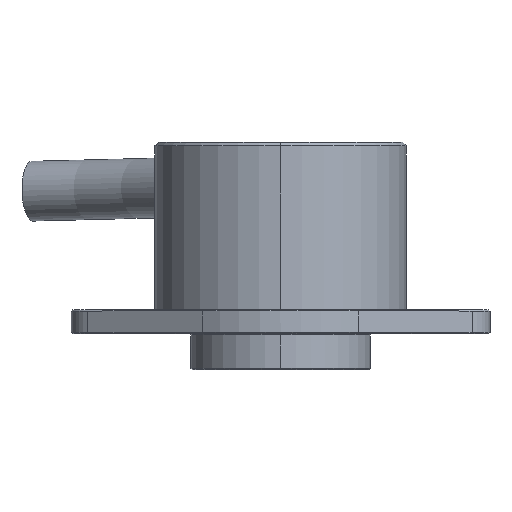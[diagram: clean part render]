
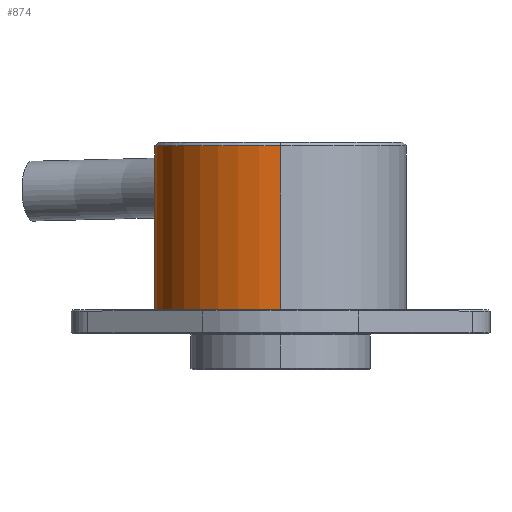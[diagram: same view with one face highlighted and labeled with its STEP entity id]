
A CAD part, top view. The second image highlights one B-rep face of the part: STEP entity #874.
In plain terms, the highlighted cylindrical face has radius 10.5 mm (diameter 21 mm), a partial arc.
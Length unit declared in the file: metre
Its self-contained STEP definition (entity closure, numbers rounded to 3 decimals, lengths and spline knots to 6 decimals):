
#14 = LINE ( 'NONE', #15, #16 ) ;
#15 = CARTESIAN_POINT ( 'NONE',  ( 0., 0.007, -0.0105 ) ) ;
#16 = VECTOR ( 'NONE',  #17 ,1. ) ;
#17 = DIRECTION ( 'NONE',  ( 0., -1., 0. ) ) ;
#64 = CARTESIAN_POINT ( 'NONE',  ( -0.0025, 0.0155, -0.010198 ) ) ;
#159 = CARTESIAN_POINT ( 'NONE',  ( 0., 0.018, -0.0105 ) ) ;
#188 = CARTESIAN_POINT ( 'NONE',  ( 0., 0.0187, -0.0105 ) ) ;
#463 = CARTESIAN_POINT ( 'NONE',  ( 0., 0.0187, 0.0105 ) ) ;
#541 = CIRCLE ( 'NONE', #542, 0.0105 ) ;
#542 = AXIS2_PLACEMENT_3D ( 'NONE', #545, #546, #547 ) ;
#545 = CARTESIAN_POINT ( 'NONE',  ( 0., 0.005, 0. ) ) ;
#546 = DIRECTION ( 'NONE',  ( 0., 1., 0. ) ) ;
#547 = DIRECTION ( 'NONE',  ( 0., 0., 1. ) ) ;
#705 = FACE_OUTER_BOUND ( 'NONE', #899, .T. ) ;
#706 = CYLINDRICAL_SURFACE ( 'NONE', #707, 0.0105 ) ;
#707 = AXIS2_PLACEMENT_3D ( 'NONE', #708, #709, #710 ) ;
#708 = CARTESIAN_POINT ( 'NONE',  ( 0., 0.007, 0. ) ) ;
#709 = DIRECTION ( 'NONE',  ( 0., -1., 0. ) ) ;
#710 = DIRECTION ( 'NONE',  ( 0., 0., -1. ) ) ;
#861 = ORIENTED_EDGE ( 'NONE', *, *, #893, .T. ) ;
#874 = ADVANCED_FACE ( 'NONE', ( #705 ), #706, .T. ) ;
#893 = EDGE_CURVE ( 'NONE', #1146, #1069, #1190, .T. ) ;
#899 = EDGE_LOOP ( 'NONE', ( #955, #861, #949, #1011, #973, #1068, #1129 ) ) ;
#927 = EDGE_CURVE ( 'NONE', #1062, #1037, #1349, .T. ) ;
#938 = EDGE_CURVE ( 'NONE', #1146, #971, #1396, .T. ) ;
#949 = ORIENTED_EDGE ( 'NONE', *, *, #1022, .T. ) ;
#955 = ORIENTED_EDGE ( 'NONE', *, *, #938, .F. ) ;
#971 = VERTEX_POINT ( 'NONE', #1528 ) ;
#973 = ORIENTED_EDGE ( 'NONE', *, *, #1010, .T. ) ;
#1010 = EDGE_CURVE ( 'NONE', #1037, #1768, #1670, .T. ) ;
#1011 = ORIENTED_EDGE ( 'NONE', *, *, #927, .T. ) ;
#1022 = EDGE_CURVE ( 'NONE', #1069, #1062, #14, .T. ) ;
#1037 = VERTEX_POINT ( 'NONE', #64 ) ;
#1062 = VERTEX_POINT ( 'NONE', #159 ) ;
#1068 = ORIENTED_EDGE ( 'NONE', *, *, #1755, .T. ) ;
#1069 = VERTEX_POINT ( 'NONE', #188 ) ;
#1129 = ORIENTED_EDGE ( 'NONE', *, *, #1372, .T. ) ;
#1146 = VERTEX_POINT ( 'NONE', #463 ) ;
#1162 = CARTESIAN_POINT ( 'NONE',  ( 0., 0.005, -0.0105 ) ) ;
#1190 = CIRCLE ( 'NONE', #1191, 0.0105 ) ;
#1191 = AXIS2_PLACEMENT_3D ( 'NONE', #1192, #1193, #1194 ) ;
#1192 = CARTESIAN_POINT ( 'NONE',  ( 0., 0.0187, 0. ) ) ;
#1193 = DIRECTION ( 'NONE',  ( 0., -1., 0. ) ) ;
#1194 = DIRECTION ( 'NONE',  ( 0., 0., 1. ) ) ;
#1349 = B_SPLINE_CURVE_WITH_KNOTS ( 'NONE', 3,
 ( #1350, #1354, #1355, #1356, #1357, #1358, #1359, #1360, #1361, #1362, #1363, #1364, #1365, #1366, #1367, #1368 ),
 .UNSPECIFIED., .F., .F.,
 ( 4, 2, 2, 2, 2, 2, 2, 4 ),
 ( 0., 0.00049, 0.000981, 0.001471, 0.001962, 0.002942, 0.003433, 0.003923 ),
 .UNSPECIFIED. ) ;
#1350 = CARTESIAN_POINT ( 'NONE',  ( 0., 0.018, -0.0105 ) ) ;
#1354 = CARTESIAN_POINT ( 'NONE',  ( -0.000166, 0.018, -0.0105 ) ) ;
#1355 = CARTESIAN_POINT ( 'NONE',  ( -0.000329, 0.017984, -0.010496 ) ) ;
#1356 = CARTESIAN_POINT ( 'NONE',  ( -0.000649, 0.01792, -0.010481 ) ) ;
#1357 = CARTESIAN_POINT ( 'NONE',  ( -0.000808, 0.017871, -0.01047 ) ) ;
#1358 = CARTESIAN_POINT ( 'NONE',  ( -0.001111, 0.017746, -0.010442 ) ) ;
#1359 = CARTESIAN_POINT ( 'NONE',  ( -0.001254, 0.017669, -0.010426 ) ) ;
#1360 = CARTESIAN_POINT ( 'NONE',  ( -0.001526, 0.017487, -0.010389 ) ) ;
#1361 = CARTESIAN_POINT ( 'NONE',  ( -0.001654, 0.017382, -0.01037 ) ) ;
#1362 = CARTESIAN_POINT ( 'NONE',  ( -0.001998, 0.017037, -0.010311 ) ) ;
#1363 = CARTESIAN_POINT ( 'NONE',  ( -0.002184, 0.016759, -0.010271 ) ) ;
#1364 = CARTESIAN_POINT ( 'NONE',  ( -0.002371, 0.016308, -0.010229 ) ) ;
#1365 = CARTESIAN_POINT ( 'NONE',  ( -0.00242, 0.01615, -0.010217 ) ) ;
#1366 = CARTESIAN_POINT ( 'NONE',  ( -0.002484, 0.015826, -0.010202 ) ) ;
#1367 = CARTESIAN_POINT ( 'NONE',  ( -0.0025, 0.015664, -0.010198 ) ) ;
#1368 = CARTESIAN_POINT ( 'NONE',  ( -0.0025, 0.0155, -0.010198 ) ) ;
#1372 = EDGE_CURVE ( 'NONE', #1720, #971, #541, .T. ) ;
#1396 = LINE ( 'NONE', #1397, #1398 ) ;
#1397 = CARTESIAN_POINT ( 'NONE',  ( 0., 0.007, 0.0105 ) ) ;
#1398 = VECTOR ( 'NONE',  #1399 ,1. ) ;
#1399 = DIRECTION ( 'NONE',  ( 0., -1., 0. ) ) ;
#1528 = CARTESIAN_POINT ( 'NONE',  ( 0., 0.005, 0.0105 ) ) ;
#1540 = LINE ( 'NONE', #1541, #1542 ) ;
#1541 = CARTESIAN_POINT ( 'NONE',  ( 0., 0.007, -0.0105 ) ) ;
#1542 = VECTOR ( 'NONE',  #1543 ,1. ) ;
#1543 = DIRECTION ( 'NONE',  ( 0., -1., 0. ) ) ;
#1664 = CARTESIAN_POINT ( 'NONE',  ( 0., 0.013, -0.0105 ) ) ;
#1670 = B_SPLINE_CURVE_WITH_KNOTS ( 'NONE', 3,
 ( #1671, #1672, #1673, #1674, #1675, #1676, #1677, #1678, #1679, #1680, #1681, #1682, #1684, #1685, #1686, #1687 ),
 .UNSPECIFIED., .F., .F.,
 ( 4, 2, 2, 2, 2, 2, 2, 4 ),
 ( 0.003923, 0.004413, 0.004904, 0.005884, 0.006374, 0.006864, 0.007354, 0.007844 ),
 .UNSPECIFIED. ) ;
#1671 = CARTESIAN_POINT ( 'NONE',  ( -0.0025, 0.0155, -0.010198 ) ) ;
#1672 = CARTESIAN_POINT ( 'NONE',  ( -0.0025, 0.015336, -0.010198 ) ) ;
#1673 = CARTESIAN_POINT ( 'NONE',  ( -0.002484, 0.01517, -0.010202 ) ) ;
#1674 = CARTESIAN_POINT ( 'NONE',  ( -0.002419, 0.014849, -0.010218 ) ) ;
#1675 = CARTESIAN_POINT ( 'NONE',  ( -0.002372, 0.014693, -0.010229 ) ) ;
#1676 = CARTESIAN_POINT ( 'NONE',  ( -0.002183, 0.014238, -0.010271 ) ) ;
#1677 = CARTESIAN_POINT ( 'NONE',  ( -0.001999, 0.013963, -0.010311 ) ) ;
#1678 = CARTESIAN_POINT ( 'NONE',  ( -0.001651, 0.013616, -0.01037 ) ) ;
#1679 = CARTESIAN_POINT ( 'NONE',  ( -0.001526, 0.013513, -0.010389 ) ) ;
#1680 = CARTESIAN_POINT ( 'NONE',  ( -0.001255, 0.013332, -0.010426 ) ) ;
#1681 = CARTESIAN_POINT ( 'NONE',  ( -0.001109, 0.013253, -0.010442 ) ) ;
#1682 = CARTESIAN_POINT ( 'NONE',  ( -0.000807, 0.013128, -0.01047 ) ) ;
#1684 = CARTESIAN_POINT ( 'NONE',  ( -0.000651, 0.013081, -0.010481 ) ) ;
#1685 = CARTESIAN_POINT ( 'NONE',  ( -0.000329, 0.013016, -0.010496 ) ) ;
#1686 = CARTESIAN_POINT ( 'NONE',  ( -0.000163, 0.013, -0.0105 ) ) ;
#1687 = CARTESIAN_POINT ( 'NONE',  ( 0., 0.013, -0.0105 ) ) ;
#1720 = VERTEX_POINT ( 'NONE', #1162 ) ;
#1755 = EDGE_CURVE ( 'NONE', #1768, #1720, #1540, .T. ) ;
#1768 = VERTEX_POINT ( 'NONE', #1664 ) ;
